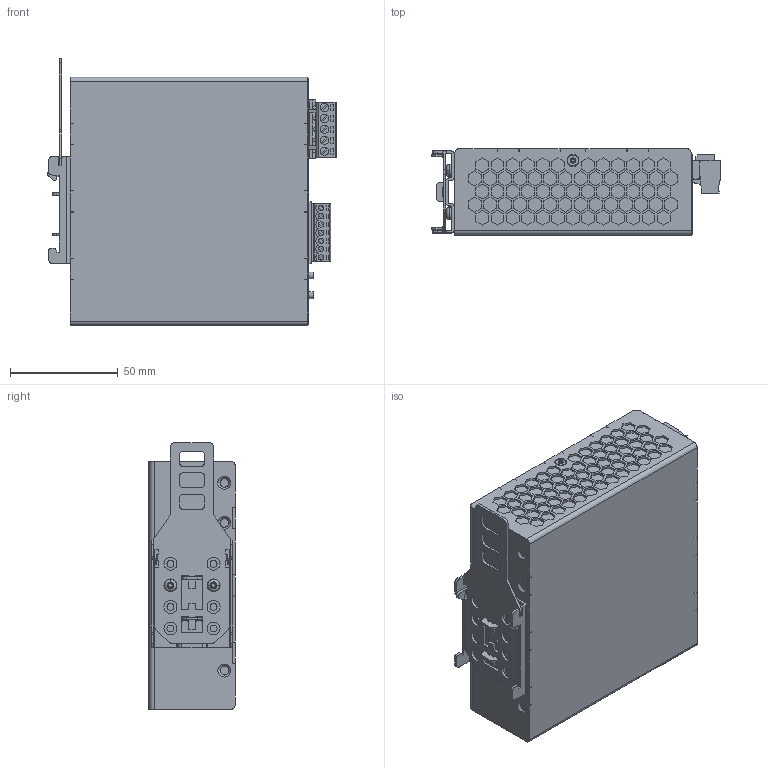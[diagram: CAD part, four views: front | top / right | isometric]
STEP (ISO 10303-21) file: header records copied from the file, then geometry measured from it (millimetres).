
FILE_DESCRIPTION (( 'STEP AP214' ), '1' );
FILE_NAME ('MBC2K_3D_light.STEP', '2016-04-27T09:14:45', ( 'miky' ), ( 'Microsoft' ), 'SwSTEP 2.0', 'SolidWorks 2014', '' );
FILE_SCHEMA (( 'AUTOMOTIVE_DESIGN' ));
Length unit declared in the file: millimetre
Products named in the file (1): MBC2K_3D_light
Bounding box: 133.8 x 40 x 123.7 mm (x, y, z)
Volume: 512663.7 mm3; surface area: 60017.2 mm2
Topology: 1 solids, 9 shells, 2176 faces, 5859 edges, 3858 vertices
Faces by surface type: plane 1809, cylinder 306, cone 40, bspline 16, torus 4, sphere 1
Entity records: 91102 total; most frequent: CARTESIAN_POINT 13173, ORIENTED_EDGE 11714, DIRECTION 10872, EDGE_CURVE 5857, LINE 4958, VECTOR 4958, VERTEX_POINT 3857, AXIS2_PLACEMENT_3D 2957
